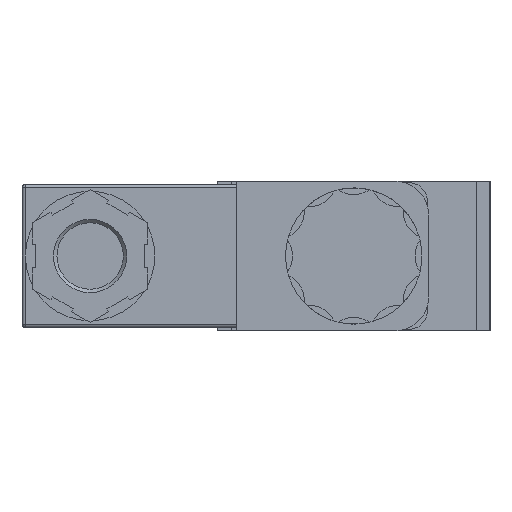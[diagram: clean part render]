
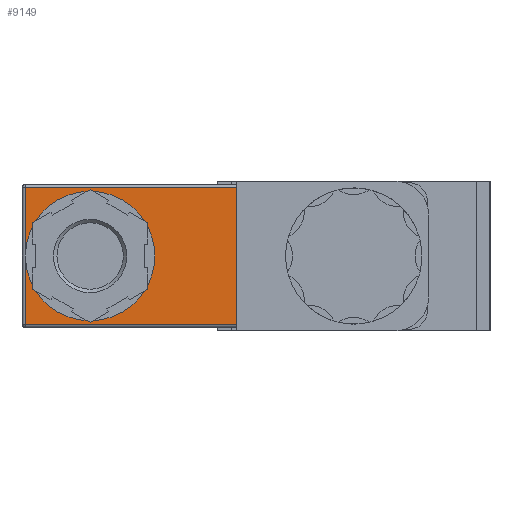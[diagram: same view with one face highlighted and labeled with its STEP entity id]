
A CAD part, left-side view. The second image highlights one B-rep face of the part: STEP entity #9149.
In plain terms, the highlighted planar face has unit normal (-1, 0, 0).
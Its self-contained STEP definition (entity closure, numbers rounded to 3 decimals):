
#309=CIRCLE('',#9566,9.5);
#680=ORIENTED_EDGE('',*,*,#2312,.T.);
#681=ORIENTED_EDGE('',*,*,#2427,.T.);
#682=ORIENTED_EDGE('',*,*,#2428,.T.);
#683=ORIENTED_EDGE('',*,*,#2399,.F.);
#684=ORIENTED_EDGE('',*,*,#2429,.T.);
#685=ORIENTED_EDGE('',*,*,#2430,.T.);
#2312=EDGE_CURVE('',#3207,#3206,#3843,.T.);
#2399=EDGE_CURVE('',#3278,#3278,#309,.F.);
#2427=EDGE_CURVE('',#3206,#3299,#3945,.F.);
#2428=EDGE_CURVE('',#3299,#3278,#3946,.F.);
#2429=EDGE_CURVE('',#3278,#3300,#3947,.F.);
#2430=EDGE_CURVE('',#3300,#3207,#3948,.F.);
#3206=VERTEX_POINT('',#11862);
#3207=VERTEX_POINT('',#11864);
#3278=VERTEX_POINT('',#12036);
#3299=VERTEX_POINT('',#12098);
#3300=VERTEX_POINT('',#12101);
#3843=LINE('',#11863,#4432);
#3945=LINE('',#12097,#4534);
#3946=LINE('',#12099,#4535);
#3947=LINE('',#12100,#4536);
#3948=LINE('',#12102,#4537);
#4432=VECTOR('',#10134,1000.);
#4534=VECTOR('',#10316,1000.);
#4535=VECTOR('',#10317,1000.);
#4536=VECTOR('',#10318,1000.);
#4537=VECTOR('',#10319,1000.);
#5041=EDGE_LOOP('',(#680,#681,#682,#683,#684,#685));
#5601=FACE_BOUND('',#5041,.T.);
#6150=PLANE('',#9585);
#9149=ADVANCED_FACE('',(#5601),#6150,.F.);
#9566=AXIS2_PLACEMENT_3D('',#12035,#10255,#10256);
#9585=AXIS2_PLACEMENT_3D('',#12096,#10314,#10315);
#10134=DIRECTION('',(0.,0.,1.));
#10255=DIRECTION('',(1.,0.,0.));
#10256=DIRECTION('',(0.,0.,1.));
#10314=DIRECTION('',(1.,0.,0.));
#10315=DIRECTION('',(0.,0.,1.));
#10316=DIRECTION('',(0.,-1.,0.));
#10317=DIRECTION('',(0.,0.,1.));
#10318=DIRECTION('',(0.,0.,1.));
#10319=DIRECTION('',(0.,1.,0.));
#11862=CARTESIAN_POINT('',(-93.,17.2,10.));
#11863=CARTESIAN_POINT('',(-93.,17.2,-7.5));
#11864=CARTESIAN_POINT('',(-93.,17.2,-10.));
#12035=CARTESIAN_POINT('',(-93.,38.7,0.));
#12036=CARTESIAN_POINT('',(-93.,48.2,0.));
#12096=CARTESIAN_POINT('',(-93.,45.7,6.245));
#12097=CARTESIAN_POINT('',(-93.,45.7,10.));
#12098=CARTESIAN_POINT('',(-93.,48.2,10.));
#12099=CARTESIAN_POINT('',(-93.,48.2,-10.5));
#12100=CARTESIAN_POINT('',(-93.,48.2,-10.5));
#12101=CARTESIAN_POINT('',(-93.,48.2,-10.));
#12102=CARTESIAN_POINT('',(-93.,45.7,-10.));
